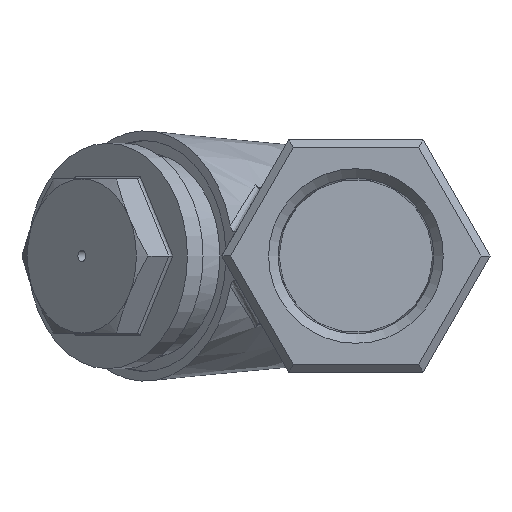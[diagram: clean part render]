
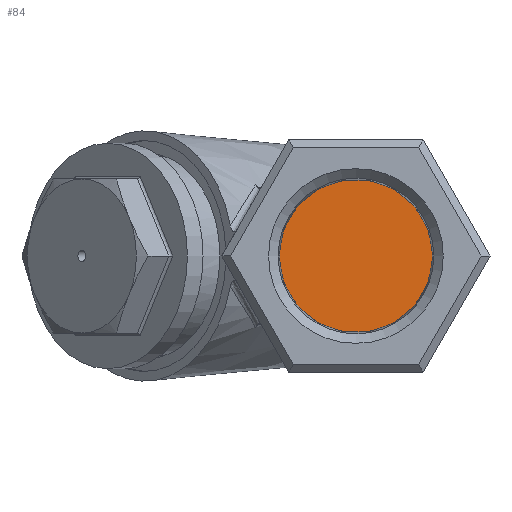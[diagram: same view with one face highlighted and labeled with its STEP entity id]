
A CAD part, left-side view. The second image highlights one B-rep face of the part: STEP entity #84.
In plain terms, the highlighted planar face has unit normal (-1, 0, 0).
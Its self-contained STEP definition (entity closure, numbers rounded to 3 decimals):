
#68=CARTESIAN_POINT('',(-83.834,-7.439,0.0));
#69=DIRECTION('',(-1.0,0.0,0.0));
#70=DIRECTION('',(0.0,0.0,1.0));
#71=AXIS2_PLACEMENT_3D('',#68,#69,#70);
#72=PLANE('',#71);
#73=CARTESIAN_POINT('',(-83.834,-14.879,0.0));
#74=VERTEX_POINT('',#73);
#75=CARTESIAN_POINT('',(-83.834,0.,0.0));
#76=DIRECTION('',(-1.0,0.,0.0));
#77=DIRECTION('',(0.,-1.0,0.0));
#78=AXIS2_PLACEMENT_3D('',#75,#76,#77);
#79=CIRCLE('',#78,14.879);
#80=EDGE_CURVE('',#74,#74,#79,.T.);
#81=ORIENTED_EDGE('',*,*,#80,.T.);
#82=EDGE_LOOP('',(#81));
#83=FACE_OUTER_BOUND('',#82,.T.);
#84=ADVANCED_FACE('',(#83),#72,.T.);
